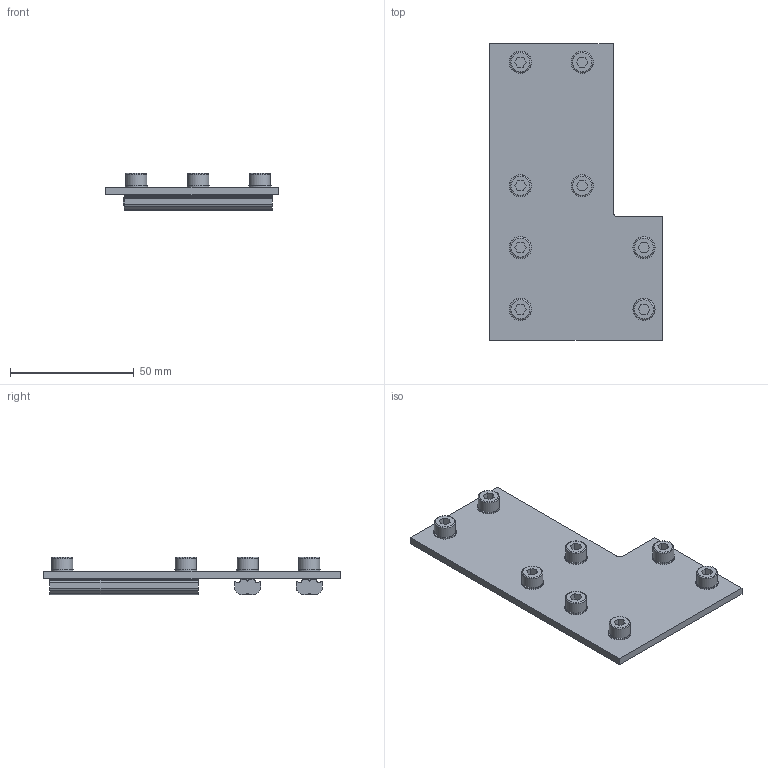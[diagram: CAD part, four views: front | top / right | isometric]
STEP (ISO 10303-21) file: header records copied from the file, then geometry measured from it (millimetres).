
FILE_DESCRIPTION(/* description */ ('L-Verbinder M-Line 120x50mm'),/* implementation_level */ '2;1');
FILE_NAME(/* name */ 'W:\Technik\Konstruktion\CAD-Daten\EOAT\GR01_\GR01.048\Kundenzeichnug PDF--STEP\GR01.048 KD.stp',/* time_stamp */ '2020-12-11T09:31:57+01:00',/* author */ ('CJost'),/* organization */ (''),/* preprocessor_version */ 'ST-DEVELOPER v17.2',/* originating_system */ 'Autodesk Inventor 2019',/* authorisation */ '');
FILE_SCHEMA (('AUTOMOTIVE_DESIGN { 1 0 10303 214 3 1 1 }'));
Length unit declared in the file: millimetre
Products named in the file (5): GR01.048; GR01.048-1; Schnorr S5; DIN912-M5x10; GR01.17.5.050
Assembly tree (21 placements, depth 2):
  GR01.048
    GR01.048-1
    Schnorr S5  x8
    DIN912-M5x10  x8
    GR01.17.5.050  x4
Bounding box: 70 x 120 x 15.1 mm (x, y, z)
Volume: 36605.2 mm3; surface area: 28004.2 mm2
Topology: 21 solids, 21 shells, 345 faces, 901 edges, 598 vertices
Faces by surface type: cylinder 169, plane 160, cone 8, torus 8
Full cylindrical faces by diameter (mm): 4.134 x8, 5 x8, 5.3 x8, 5.5 x8, 8.5 x8, 9 x8
Entity records: 3344 total; most frequent: CARTESIAN_POINT 774, DIRECTION 506, ORIENTED_EDGE 462, EDGE_CURVE 231, AXIS2_PLACEMENT_3D 192, VERTEX_POINT 156, LINE 122, VECTOR 122
